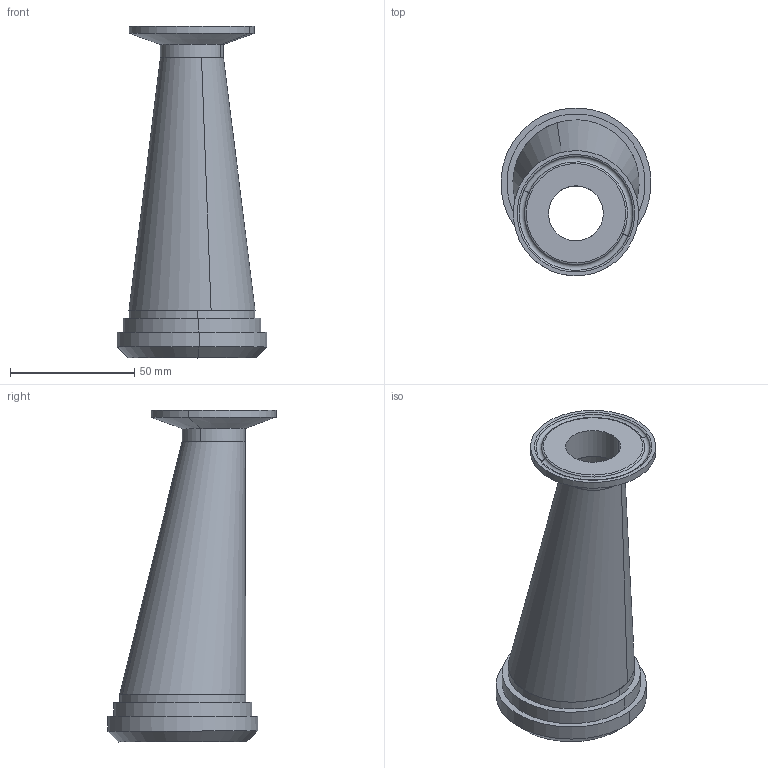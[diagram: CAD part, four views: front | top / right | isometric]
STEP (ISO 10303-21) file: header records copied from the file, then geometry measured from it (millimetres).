
FILE_DESCRIPTION (( 'STEP AP203' ), '1' );
FILE_NAME ('EG32PC 2.0X1.0.STEP', '2021-10-28T13:23:50', ( '' ), ( '' ), 'SwSTEP 2.0', 'SolidWorks 2021', '' );
FILE_SCHEMA (( 'CONFIG_CONTROL_DESIGN' ));
Length unit declared in the file: inch
Products named in the file (4): 14PR2.0; EG2CS1.0; E32WW2.0X1.0; EG32PC 2.0X1.0
Assembly tree (3 placements, depth 2):
  EG32PC 2.0X1.0
    14PR2.0
    EG2CS1.0
    E32WW2.0X1.0
Bounding box: 60.26 x 67.68 x 133.56 mm (x, y, z)
Volume: 41834.3 mm3; surface area: 37102.5 mm2
Topology: 3 solids, 3 shells, 37 faces, 74 edges, 46 vertices
Faces by surface type: cylinder 14, plane 9, torus 6, cone 4, bspline 4
Entity records: 1922 total; most frequent: CARTESIAN_POINT 691, DIRECTION 200, ORIENTED_EDGE 148, AXIS2_PLACEMENT_3D 91, EDGE_CURVE 74, CIRCLE 52, VERTEX_POINT 46, EDGE_LOOP 46
